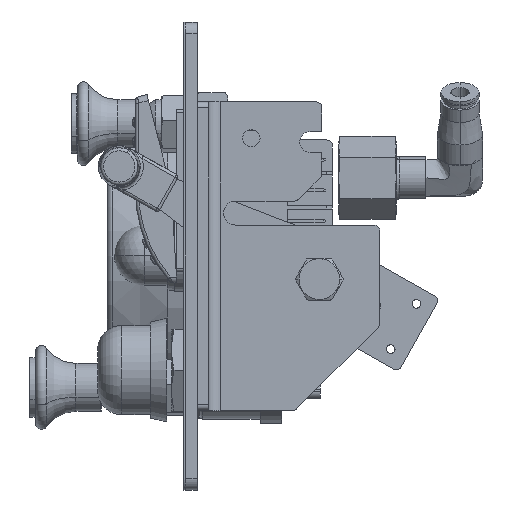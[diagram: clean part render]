
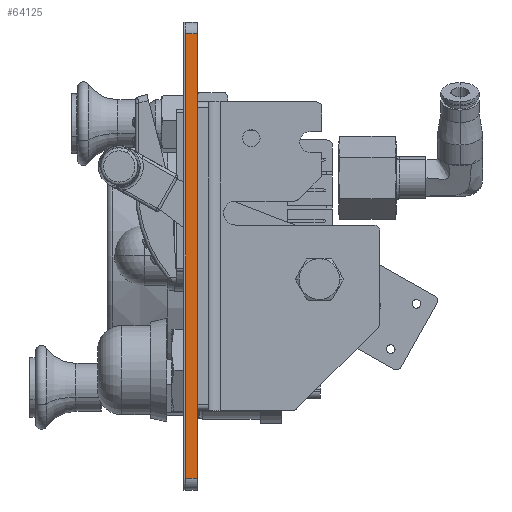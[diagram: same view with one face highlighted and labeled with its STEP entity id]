
A CAD part, left-side view. The second image highlights one B-rep face of the part: STEP entity #64125.
In plain terms, the highlighted planar face has unit normal (-1, 0, 0).
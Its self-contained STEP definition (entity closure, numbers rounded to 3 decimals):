
#912 = LINE ( 'NONE', #45727, #91551 ) ;
#5664 = CARTESIAN_POINT ( 'NONE',  ( 0., 3.038, -120.777 ) ) ;
#8696 = EDGE_CURVE ( 'NONE', #70331, #102281, #61157, .T. ) ;
#16544 = CARTESIAN_POINT ( 'NONE',  ( 0., 3.038, -3.175 ) ) ;
#17196 = VECTOR ( 'NONE', #108600, 1000. ) ;
#19040 = CARTESIAN_POINT ( 'NONE',  ( 0., 3.038, -3.175 ) ) ;
#19637 = DIRECTION ( 'NONE',  ( 0., 0., 1. ) ) ;
#21327 = ORIENTED_EDGE ( 'NONE', *, *, #46306, .F. ) ;
#23954 = CARTESIAN_POINT ( 'NONE',  ( 0., 3.038, -3.175 ) ) ;
#25334 = DIRECTION ( 'NONE',  ( 0., -1., 0. ) ) ;
#26706 = LINE ( 'NONE', #108385, #47260 ) ;
#27492 = PLANE ( 'NONE',  #53918 ) ;
#27859 = DIRECTION ( 'NONE',  ( 0., 0., -1. ) ) ;
#36737 = ORIENTED_EDGE ( 'NONE', *, *, #8696, .F. ) ;
#38365 = CARTESIAN_POINT ( 'NONE',  ( 0., 3.038, -3.175 ) ) ;
#45148 = LINE ( 'NONE', #16544, #91928 ) ;
#45727 = CARTESIAN_POINT ( 'NONE',  ( 0., 0., -3.175 ) ) ;
#46306 = EDGE_CURVE ( 'NONE', #102281, #102984, #45148, .T. ) ;
#47260 = VECTOR ( 'NONE', #64613, 1000. ) ;
#53918 = AXIS2_PLACEMENT_3D ( 'NONE', #19040, #80451, #27859 ) ;
#56703 = ORIENTED_EDGE ( 'NONE', *, *, #112751, .T. ) ;
#61157 = LINE ( 'NONE', #38365, #17196 ) ;
#64125 = ADVANCED_FACE ( 'NONE', ( #105790 ), #27492, .F. ) ;
#64613 = DIRECTION ( 'NONE',  ( 0., -1., 0. ) ) ;
#66199 = EDGE_CURVE ( 'NONE', #91731, #102984, #912, .T. ) ;
#69924 = ORIENTED_EDGE ( 'NONE', *, *, #66199, .T. ) ;
#70331 = VERTEX_POINT ( 'NONE', #5664 ) ;
#80451 = DIRECTION ( 'NONE',  ( 1., 0., 0. ) ) ;
#91551 = VECTOR ( 'NONE', #19637, 1000. ) ;
#91731 = VERTEX_POINT ( 'NONE', #92693 ) ;
#91928 = VECTOR ( 'NONE', #25334, 1000. ) ;
#92693 = CARTESIAN_POINT ( 'NONE',  ( 0., 0., -120.777 ) ) ;
#98123 = CARTESIAN_POINT ( 'NONE',  ( 0., 0., -3.175 ) ) ;
#101736 = EDGE_LOOP ( 'NONE', ( #69924, #21327, #36737, #56703 ) ) ;
#102281 = VERTEX_POINT ( 'NONE', #23954 ) ;
#102984 = VERTEX_POINT ( 'NONE', #98123 ) ;
#105790 = FACE_OUTER_BOUND ( 'NONE', #101736, .T. ) ;
#108385 = CARTESIAN_POINT ( 'NONE',  ( 0., 3.038, -120.777 ) ) ;
#108600 = DIRECTION ( 'NONE',  ( 0., 0., 1. ) ) ;
#112751 = EDGE_CURVE ( 'NONE', #70331, #91731, #26706, .T. ) ;
